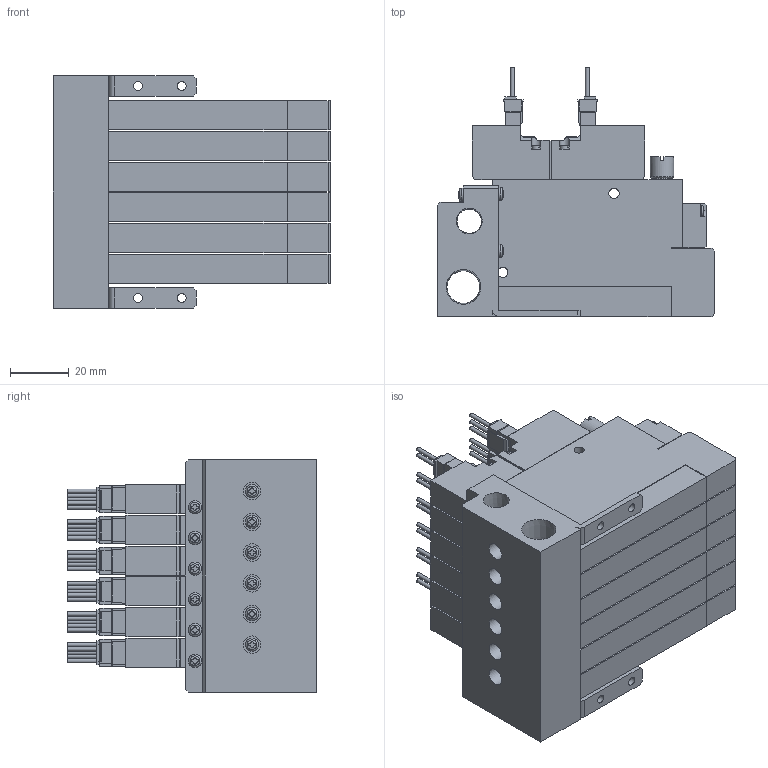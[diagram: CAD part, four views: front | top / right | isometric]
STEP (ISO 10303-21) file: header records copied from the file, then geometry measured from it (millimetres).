
FILE_DESCRIPTION(('STEP AP203'),'1');
FILE_NAME('ZZC5WC606_3D.stp','2024-09-04T23:08:51',(' '),(' '),'Spatial InterOp 3D',' ',' ');
FILE_SCHEMA(('CONFIG_CONTROL_DESIGN'));
Length unit declared in the file: millimetre
Products named in the file (5): BSC1M※※ZZC5WC606; Solenoid valve W; Pressure Sensor ZZ; Unit-C; BaseMC60R
Assembly tree (19 placements, depth 2):
  BSC1M※※ZZC5WC606
    Solenoid valve W  x6
    Pressure Sensor ZZ  x6
    Unit-C  x6
    BaseMC60R
Bounding box: 95 x 85.05 x 79.5 mm (x, y, z)
Volume: 317928.6 mm3; surface area: 110639.9 mm2
Topology: 19 solids, 19 shells, 2163 faces, 5793 edges, 3834 vertices
Faces by surface type: plane 1655, cylinder 406, cone 46, sphere 28, torus 28
Full cylindrical faces by diameter (mm): 1.4 x30, 2.5 x12, 3 x28, 3.5 x36, 4 x6, 4.134 x12, 4.5 x16, 5.5 x6, 6 x6, 7 x12, 8 x6, 8.422 x1, 11.233 x1
Entity records: 19343 total; most frequent: CARTESIAN_POINT 4472, DIRECTION 2995, ORIENTED_EDGE 2836, EDGE_CURVE 1418, AXIS2_PLACEMENT_3D 1034, VERTEX_POINT 1009, LINE 927, VECTOR 927
